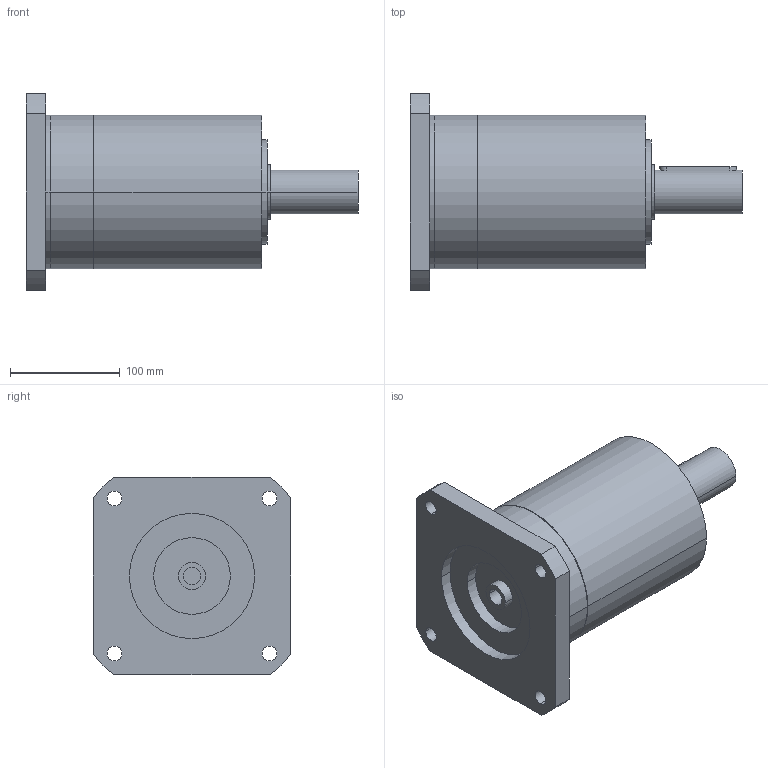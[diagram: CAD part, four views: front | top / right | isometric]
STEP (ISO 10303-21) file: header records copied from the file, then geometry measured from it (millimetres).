
FILE_DESCRIPTION(('CoCreate Modeling STEP Export'),'2;1');
FILE_NAME('GPR150_ig-9-12-16-20-28-35_40_B14_16_P09.stp','2014-08-19T17:03:02',(''),(''),'CoCreate Modeling STEP processor for AP214 (Solid Model)','CoCreate Modeling 16.00C 25-Feb-2009 (C) Parametric Technology GmbH','');
FILE_SCHEMA(('AUTOMOTIVE_DESIGN { 1 0 10303 214 1 1 1 1 }'));
Length unit declared in the file: millimetre
Products named in the file (2): GPR150_ig-9-12-16-20-28-35_40_B14_16_P09
Assembly tree (1 placements, depth 2):
  GPR150_ig-9-12-16-20-28-35_40_B14_16_P09
    GPR150_ig-9-12-16-20-28-35_40_B14_16_P09
Bounding box: 303 x 180 x 180 mm (x, y, z)
Volume: 3565720.2 mm3; surface area: 191351.5 mm2
Topology: 1 solids, 1 shells, 73 faces, 196 edges, 138 vertices
Faces by surface type: cylinder 44, plane 23, cone 6
Entity records: 2043 total; most frequent: CARTESIAN_POINT 397, ORIENTED_EDGE 388, DIRECTION 274, EDGE_CURVE 194, VERTEX_POINT 138, AXIS2_PLACEMENT_3D 103, EDGE_LOOP 96, FACE_OUTER_BOUND 73
